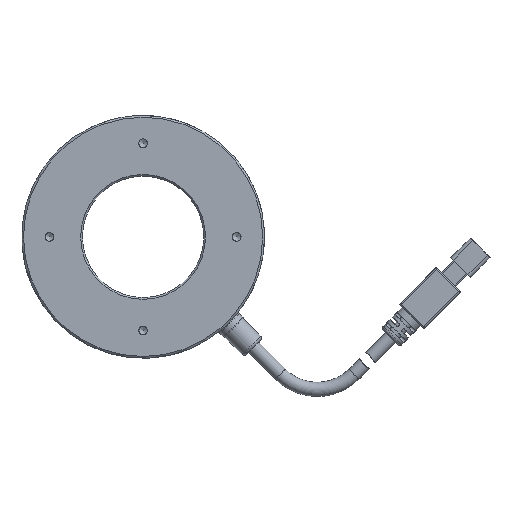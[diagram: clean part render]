
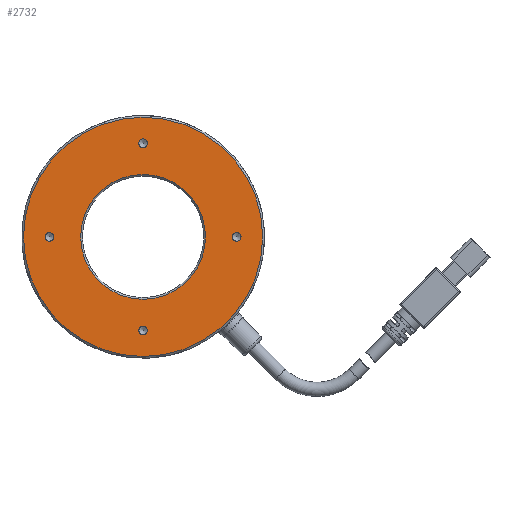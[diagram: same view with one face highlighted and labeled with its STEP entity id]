
A CAD part, front view. The second image highlights one B-rep face of the part: STEP entity #2732.
In plain terms, the highlighted planar face has unit normal (0, -1, 0).
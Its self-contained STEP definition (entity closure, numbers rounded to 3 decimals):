
#8 = CARTESIAN_POINT ( 'NONE',  ( 0., 38.273, 0. ) ) ;
#398 = CARTESIAN_POINT ( 'NONE',  ( 27., 38.273, -1.25 ) ) ;
#662 = AXIS2_PLACEMENT_3D ( 'NONE', #4053, #5237, #8650 ) ;
#830 = DIRECTION ( 'NONE',  ( 0., -1., 0. ) ) ;
#1091 = FACE_OUTER_BOUND ( 'NONE', #10132, .T. ) ;
#1092 = EDGE_LOOP ( 'NONE', ( #7583 ) ) ;
#1095 = AXIS2_PLACEMENT_3D ( 'NONE', #3948, #3044, #10678 ) ;
#1248 = CIRCLE ( 'NONE', #14042, 1.25 ) ;
#1705 = EDGE_LOOP ( 'NONE', ( #11260 ) ) ;
#1781 = EDGE_CURVE ( 'NONE', #9445, #9445, #14302, .T. ) ;
#1954 = DIRECTION ( 'NONE',  ( 0., 0., -1. ) ) ;
#1972 = EDGE_LOOP ( 'NONE', ( #12947 ) ) ;
#2167 = EDGE_CURVE ( 'NONE', #9270, #9270, #7662, .T. ) ;
#2189 = DIRECTION ( 'NONE',  ( 0., 0., 1. ) ) ;
#2237 = DIRECTION ( 'NONE',  ( 0., 1., 0. ) ) ;
#2348 = CARTESIAN_POINT ( 'NONE',  ( 0., 38.273, 18. ) ) ;
#2732 = ADVANCED_FACE ( 'NONE', ( #10593, #1091, #3994, #7300, #9881, #8343 ), #13263, .F. ) ;
#3044 = DIRECTION ( 'NONE',  ( 0., -1., 0. ) ) ;
#3109 = EDGE_CURVE ( 'NONE', #4455, #4455, #12335, .T. ) ;
#3948 = CARTESIAN_POINT ( 'NONE',  ( 27., 38.273, 0. ) ) ;
#3994 = FACE_BOUND ( 'NONE', #1092, .T. ) ;
#4053 = CARTESIAN_POINT ( 'NONE',  ( 0., 38.273, 0. ) ) ;
#4258 = AXIS2_PLACEMENT_3D ( 'NONE', #7849, #6552, #14330 ) ;
#4455 = VERTEX_POINT ( 'NONE', #2348 ) ;
#4493 = CARTESIAN_POINT ( 'NONE',  ( -27., 38.273, -1.25 ) ) ;
#5065 = ORIENTED_EDGE ( 'NONE', *, *, #2167, .F. ) ;
#5237 = DIRECTION ( 'NONE',  ( 0., -1., 0. ) ) ;
#5566 = EDGE_LOOP ( 'NONE', ( #5065 ) ) ;
#6308 = CARTESIAN_POINT ( 'NONE',  ( -27., 38.273, 0. ) ) ;
#6481 = DIRECTION ( 'NONE',  ( 0., -1., 0. ) ) ;
#6552 = DIRECTION ( 'NONE',  ( 0., 1., 0. ) ) ;
#7300 = FACE_BOUND ( 'NONE', #1705, .T. ) ;
#7583 = ORIENTED_EDGE ( 'NONE', *, *, #9004, .F. ) ;
#7662 = CIRCLE ( 'NONE', #10571, 1.25 ) ;
#7793 = CARTESIAN_POINT ( 'NONE',  ( 0., 38.273, 34.5 ) ) ;
#7849 = CARTESIAN_POINT ( 'NONE',  ( -17.5, 38.273, 0. ) ) ;
#8096 = VERTEX_POINT ( 'NONE', #10784 ) ;
#8343 = FACE_BOUND ( 'NONE', #1972, .T. ) ;
#8443 = VERTEX_POINT ( 'NONE', #398 ) ;
#8596 = DIRECTION ( 'NONE',  ( 0., -1., 0. ) ) ;
#8650 = DIRECTION ( 'NONE',  ( 0., 0., 1. ) ) ;
#9004 = EDGE_CURVE ( 'NONE', #8443, #8443, #9071, .T. ) ;
#9071 = CIRCLE ( 'NONE', #1095, 1.25 ) ;
#9270 = VERTEX_POINT ( 'NONE', #4493 ) ;
#9445 = VERTEX_POINT ( 'NONE', #7793 ) ;
#9881 = FACE_BOUND ( 'NONE', #5566, .T. ) ;
#10132 = EDGE_LOOP ( 'NONE', ( #10451 ) ) ;
#10451 = ORIENTED_EDGE ( 'NONE', *, *, #1781, .T. ) ;
#10571 = AXIS2_PLACEMENT_3D ( 'NONE', #6308, #8596, #11990 ) ;
#10593 = FACE_BOUND ( 'NONE', #10794, .T. ) ;
#10678 = DIRECTION ( 'NONE',  ( 0., 0., -1. ) ) ;
#10784 = CARTESIAN_POINT ( 'NONE',  ( 0., 38.273, -28.25 ) ) ;
#10794 = EDGE_LOOP ( 'NONE', ( #12996 ) ) ;
#10797 = EDGE_CURVE ( 'NONE', #11392, #11392, #1248, .T. ) ;
#11260 = ORIENTED_EDGE ( 'NONE', *, *, #12482, .F. ) ;
#11392 = VERTEX_POINT ( 'NONE', #11940 ) ;
#11940 = CARTESIAN_POINT ( 'NONE',  ( 0., 38.273, 25.75 ) ) ;
#11990 = DIRECTION ( 'NONE',  ( 0., 0., -1. ) ) ;
#12335 = CIRCLE ( 'NONE', #13983, 18. ) ;
#12482 = EDGE_CURVE ( 'NONE', #8096, #8096, #13896, .T. ) ;
#12543 = AXIS2_PLACEMENT_3D ( 'NONE', #13122, #6481, #14266 ) ;
#12947 = ORIENTED_EDGE ( 'NONE', *, *, #10797, .F. ) ;
#12996 = ORIENTED_EDGE ( 'NONE', *, *, #3109, .T. ) ;
#13122 = CARTESIAN_POINT ( 'NONE',  ( 0., 38.273, -27. ) ) ;
#13263 = PLANE ( 'NONE',  #4258 ) ;
#13896 = CIRCLE ( 'NONE', #12543, 1.25 ) ;
#13983 = AXIS2_PLACEMENT_3D ( 'NONE', #8, #2237, #2189 ) ;
#14042 = AXIS2_PLACEMENT_3D ( 'NONE', #14278, #830, #1954 ) ;
#14266 = DIRECTION ( 'NONE',  ( 0., 0., -1. ) ) ;
#14278 = CARTESIAN_POINT ( 'NONE',  ( 0., 38.273, 27. ) ) ;
#14302 = CIRCLE ( 'NONE', #662, 34.5 ) ;
#14330 = DIRECTION ( 'NONE',  ( 0., 0., 1. ) ) ;
